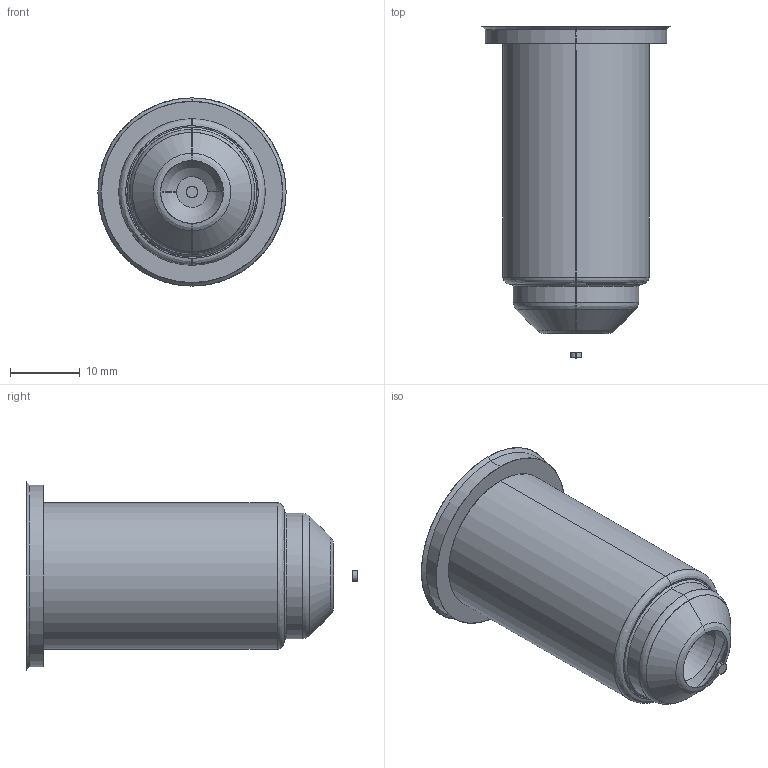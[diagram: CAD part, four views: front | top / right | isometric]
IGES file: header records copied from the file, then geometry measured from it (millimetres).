
Start section: SolidWorks IGES file using analytic representation for surfaces
Global section: file name: C:\Documents and Settings\ws-20\Desktop\TEM\Sede UGER2501-M-A C-45 L-75 Ød-1.5.IGS; native system: SolidWorks 2012; preprocessor: SolidWorks 2012; author: ws-20; date: 120405.111632; units: millimetre
Bounding box: 27 x 47.61 x 27 mm (x, y, z)
Surface area: 3871.2 mm2 (no closed solid volume)
Topology: 0 solids, 0 shells, 27 faces, 332 edges, 332 vertices
Faces by surface type: revolution 16, bspline 11
